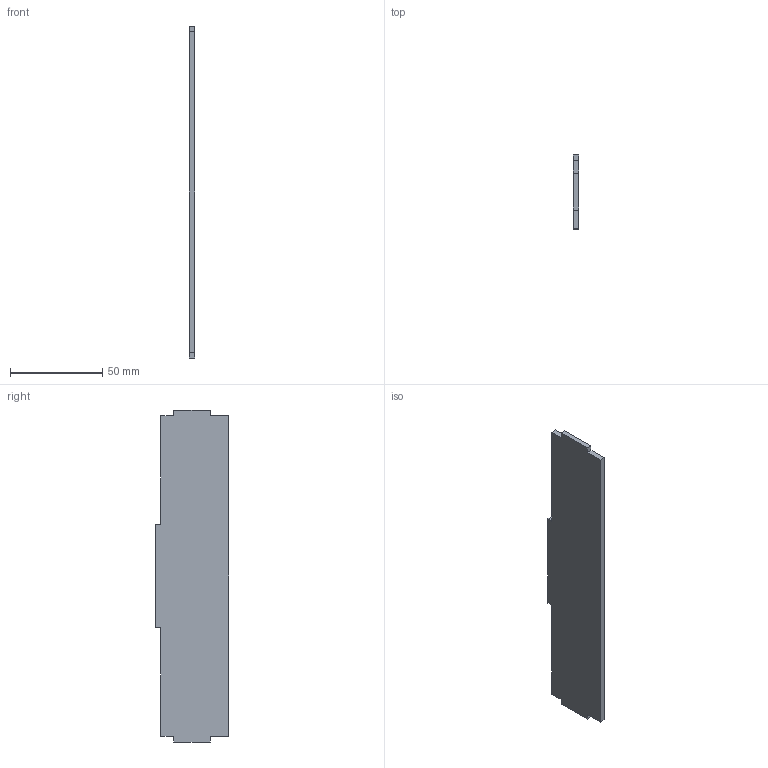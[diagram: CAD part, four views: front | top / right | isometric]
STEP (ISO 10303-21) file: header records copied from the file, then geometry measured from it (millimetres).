
FILE_DESCRIPTION (( 'STEP AP203' ), '1' );
FILE_NAME ('Structure support coté 2.STEP', '2025-09-18T11:53:27', ( '' ), ( '' ), 'SwSTEP 2.0', 'SolidWorks 2019', '' );
FILE_SCHEMA (( 'CONFIG_CONTROL_DESIGN' ));
Length unit declared in the file: millimetre
Products named in the file (1): Structure support coté 2
Bounding box: 3 x 40 x 180 mm (x, y, z)
Volume: 20178 mm3; surface area: 14772 mm2
Topology: 1 solids, 1 shells, 18 faces, 48 edges, 32 vertices
Faces by surface type: plane 18
Entity records: 629 total; most frequent: CARTESIAN_POINT 99, ORIENTED_EDGE 96, DIRECTION 86, LINE 48, VECTOR 48, EDGE_CURVE 48, VERTEX_POINT 32, AXIS2_PLACEMENT_3D 19
